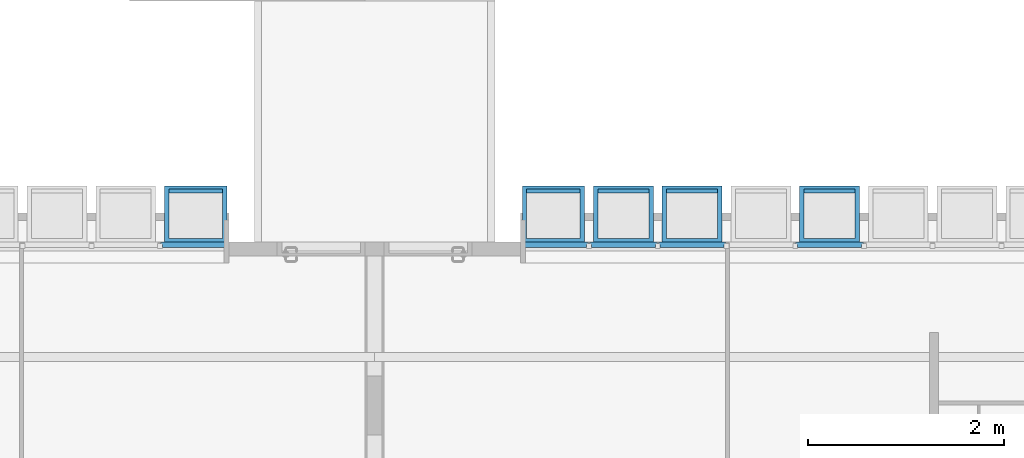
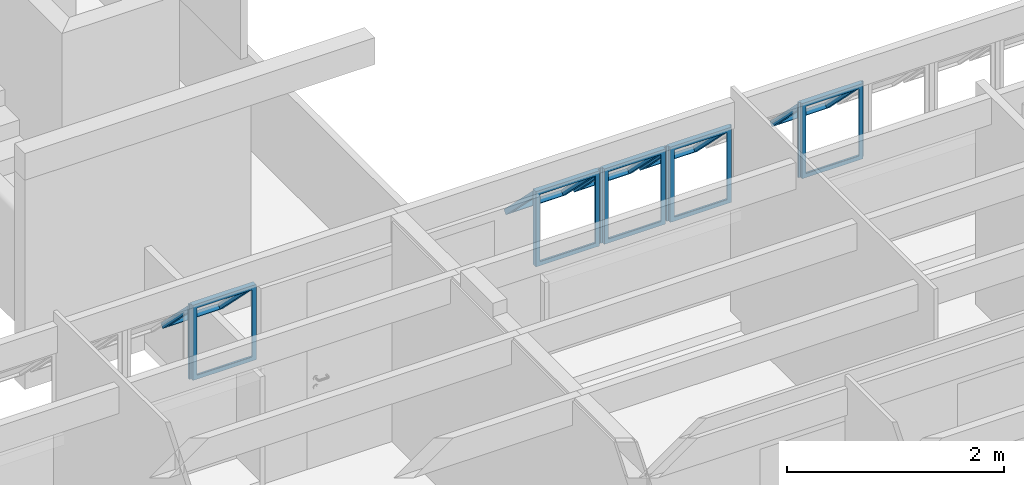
# One storey, part 30 of 38: 5 building element parts, 7 elements without a shape of their own.
"""IFC2X3 building model written with IfcOpenShell, lengths in millimetres."""

import ifcopenshell
import ifcopenshell.guid

model = None  # the IFC model being written
_history = None  # IfcOwnerHistory: only IFC2X3 demands one
_inside = {}  # id of a spatial element -> (the spatial element, [elements in it])
_under = {}  # id of a project, library or spatial element -> (it, [spatial elements below it])
_declared = {}  # id of a project -> (the project, [libraries it declares])
_typed = {}  # id of a type object -> (the type object, [elements of that type])
_made_of = {}  # id of a material, layer set ... -> (it, [elements and type objects made of it])


def new_model(schema):
    """Start an empty IFC model of exactly this schema.

    Asked for "IFC4X3", IfcOpenShell would pick the latest addendum, in which some entities
    have other attributes; the version numbers below select the first issue.
    IFC2X3 requires an IfcOwnerHistory on every rooted entity: one is made here for all.
    """
    global model, _history
    if schema == "IFC4X3":
        model = ifcopenshell.file(schema_version=(4, 3, 0, 0))
    else:
        model = ifcopenshell.file(schema=schema)
    _inside.clear()
    _under.clear()
    _declared.clear()
    _typed.clear()
    _made_of.clear()
    _history = None
    if model.schema == "IFC2X3":
        org = make("IfcOrganization", Name="unknown")
        user = make(
            "IfcPersonAndOrganization",
            ThePerson=make("IfcPerson", FamilyName="unknown"),
            TheOrganization=org,
        )
        app = make(
            "IfcApplication",
            ApplicationDeveloper=org,
            Version="unknown",
            ApplicationFullName="unknown",
            ApplicationIdentifier="unknown",
        )
        _history = make(
            "IfcOwnerHistory",
            OwningUser=user,
            OwningApplication=app,
            ChangeAction="ADDED",
            CreationDate=0,
        )
    return model


def make(cls, **values):
    """One entity of the class cls with the attributes given. An attribute that is None is left unset."""
    return model.create_entity(
        cls, **{name: value for name, value in values.items() if value is not None}
    )


def entity(cls, *values):
    """Any entity or typed value of the class cls, its attributes in the order of the schema. None: left unset."""
    e = model.create_entity(cls)
    for i, value in enumerate(values):
        if value is not None:
            e[i] = value
    return e


def rooted(cls, **values):
    """An entity with a GlobalId (a new one), such as an element, a storey or a relation."""
    return make(cls, GlobalId=ifcopenshell.guid.new(), OwnerHistory=_history, **values)


def si_unit(unit_type, name, prefix=None):
    """IfcSIUnit, for example si_unit("LENGTHUNIT", "METRE", prefix="MILLI")."""
    return make("IfcSIUnit", UnitType=unit_type, Prefix=prefix, Name=name)


def converted_unit(unit_type, name, factor, base, dimensions=None, offset=None):
    """IfcConversionBasedUnit, such as the inch: factor (a typed value) times the base unit."""
    return make(
        "IfcConversionBasedUnit"
        if offset is None
        else "IfcConversionBasedUnitWithOffset",
        ConversionOffset=offset,
        Dimensions=None
        if dimensions is None
        else entity("IfcDimensionalExponents", *dimensions),
        UnitType=unit_type,
        Name=name,
        ConversionFactor=make(
            "IfcMeasureWithUnit", ValueComponent=factor, UnitComponent=base
        ),
    )


def derived_unit(unit_type, elements):
    """IfcDerivedUnit: a product of units, each with its exponent."""
    return make(
        "IfcDerivedUnit",
        Elements=[
            make("IfcDerivedUnitElement", Unit=unit, Exponent=power)
            for unit, power in elements
        ],
        UnitType=unit_type,
    )


def money_unit(currency):
    """IfcMonetaryUnit."""
    return make("IfcMonetaryUnit", Currency=currency)


def assignment(units):
    """IfcUnitAssignment: the units of a project."""
    return None if units is None else make("IfcUnitAssignment", Units=units)


def point(xyz):
    """IfcCartesianPoint."""
    return None if xyz is None else make("IfcCartesianPoint", Coordinates=xyz)


def direction(xyz):
    """IfcDirection."""
    return None if xyz is None else make("IfcDirection", DirectionRatios=xyz)


def frame(location, z_axis=None, x_axis=None):
    """IfcAxis2Placement3D, a coordinate frame: its origin and axes. An axis left out is left unset."""
    return make(
        "IfcAxis2Placement3D",
        Location=point(location),
        Axis=direction(z_axis),
        RefDirection=direction(x_axis),
    )


def origin_with_axes():
    """The frame at (0, 0, 0) with the z axis (0, 0, 1) and the x axis (1, 0, 0) written out."""
    return frame((0.0, 0.0, 0.0), z_axis=(0.0, 0.0, 1.0), x_axis=(1.0, 0.0, 0.0))


def place(relative_to, where):
    """IfcLocalPlacement: puts the frame where relative to a parent placement (None: the world)."""
    return make(
        "IfcLocalPlacement", PlacementRelTo=relative_to, RelativePlacement=where
    )


def context(
    kind, dimensions, precision=None, world=None, true_north=None, identifier=None
):
    """IfcGeometricRepresentationContext, for example the 3D "Model" context."""
    return make(
        "IfcGeometricRepresentationContext",
        ContextIdentifier=identifier,
        ContextType=kind,
        CoordinateSpaceDimension=dimensions,
        Precision=precision,
        WorldCoordinateSystem=world,
        TrueNorth=true_north,
    )


def subcontext(parent, identifier, kind, view, scale=None):
    """IfcGeometricRepresentationSubContext, for example "Body" below "Model"."""
    return make(
        "IfcGeometricRepresentationSubContext",
        ContextIdentifier=identifier,
        ContextType=kind,
        ParentContext=parent,
        TargetScale=scale,
        TargetView=view,
    )


def project(units=None, contexts=None):
    """IfcProject with its units and contexts."""
    return rooted(
        "IfcProject",
        Name="project",
        RepresentationContexts=contexts,
        UnitsInContext=assignment(units),
    )


def spatial(cls, under=None, at=None, **own):
    """A site, building, storey or space (cls), placed at a placement, below another one or the project."""
    s = rooted(cls, ObjectPlacement=at, **own)
    if under is not None:
        _under.setdefault(under.id(), (under, []))[1].append(s)
    return s


def faces_of(points, faces, orient=None, outer=None):
    """IfcFace entities. A face is a list of loops; a loop is a list of indices into points, from 0.

    orient and outer hold one flag for each loop. By default every Orientation is true, the
    first loop of a face is its IfcFaceOuterBound and the others are IfcFaceBound.
    """
    made = []
    for i, loops in enumerate(faces):
        bounds = []
        for j, loop in enumerate(loops):
            is_outer = j == 0 if outer is None else outer[i][j]
            bounds.append(
                make(
                    "IfcFaceOuterBound" if is_outer else "IfcFaceBound",
                    Bound=make("IfcPolyLoop", Polygon=[points[k] for k in loop]),
                    Orientation=True if orient is None else orient[i][j],
                )
            )
        made.append(make("IfcFace", Bounds=bounds))
    return made


def faceted_brep(points, faces, orient=None, outer=None, voids=None):
    """IfcFacetedBrep: a solid bounded by flat faces; with voids (closed shells), ...WithVoids."""
    shared = [point(p) for p in points]
    hull = make("IfcClosedShell", CfsFaces=faces_of(shared, faces, orient, outer))
    if voids is None:
        return make("IfcFacetedBrep", Outer=hull)
    return make(
        "IfcFacetedBrepWithVoids",
        Outer=hull,
        Voids=[
            make(cls, CfsFaces=faces_of(shared, fs, o, b)) for cls, fs, o, b in voids
        ],
    )


def shape(context_of_items, identifier, shape_type, items):
    """IfcShapeRepresentation: the items that make up one representation, for example the "Body"."""
    return make(
        "IfcShapeRepresentation",
        ContextOfItems=context_of_items,
        RepresentationIdentifier=identifier,
        RepresentationType=shape_type,
        Items=items,
    )


def source(mapping_origin, context_of_items, identifier, shape_type, items):
    """IfcRepresentationMap: a shape defined once, which mapped items show again and again."""
    return make(
        "IfcRepresentationMap",
        MappingOrigin=mapping_origin,
        MappedRepresentation=shape(context_of_items, identifier, shape_type, items),
    )


def transform(
    local_origin,
    x_axis=None,
    y_axis=None,
    z_axis=None,
    scale=None,
    scale2=None,
    scale3=None,
    uniform=True,
):
    """IfcCartesianTransformationOperator3D, or its non-uniform kind. x_axis, y_axis, z_axis: its Axis1, 2, 3."""
    if uniform:
        return make(
            "IfcCartesianTransformationOperator3D",
            Axis1=direction(x_axis),
            Axis2=direction(y_axis),
            LocalOrigin=point(local_origin),
            Scale=scale,
            Axis3=direction(z_axis),
        )
    return make(
        "IfcCartesianTransformationOperator3DnonUniform",
        Axis1=direction(x_axis),
        Axis2=direction(y_axis),
        LocalOrigin=point(local_origin),
        Scale=scale,
        Axis3=direction(z_axis),
        Scale2=scale2,
        Scale3=scale3,
    )


def mapped(mapping_source, mapping_target):
    """IfcMappedItem: shows the shape of a source again, moved by a transform."""
    return make(
        "IfcMappedItem", MappingSource=mapping_source, MappingTarget=mapping_target
    )


def material(Name=None, Category=None):
    """IfcMaterial."""
    return make("IfcMaterial", Name=Name, Category=Category)


def made_of(thing, what):
    """Note that an element or type object is made of a material, layer set ...; save() writes the relation."""
    if what is not None:
        _made_of.setdefault(what.id(), (what, []))[1].append(thing)
    return thing


def type_object(cls, material=None, **own):
    """A type object (cls), such as IfcWallType, which elements share."""
    return made_of(rooted(cls, **own), material)


def element(
    cls,
    number,
    at=None,
    inside=None,
    cuts=None,
    type_object=None,
    material=None,
    context=None,
    identifier="Body",
    shape_type=None,
    held_by="IfcProductDefinitionShape",
    body=None,
    shapes=None,
    **own,
):
    """One element of the class cls, such as IfcWall. Its Tag is "e" and its number.

    at: its placement. inside: the storey or other place that contains it. cuts: it is an
    opening in that element (IfcRelVoidsElement). A single representation is given by context,
    identifier, shape_type and body (its items); several are given by shapes. held_by: the class
    of the entity that holds the representations. save() writes the other relations.
    """
    e = rooted(cls, Tag="e%d" % number, ObjectPlacement=at, **own)
    if body is not None:
        shapes = [shape(context, identifier, shape_type, body)]
    if shapes is not None:
        e.Representation = make(held_by, Representations=shapes)
    if inside is not None:
        _inside.setdefault(inside.id(), (inside, []))[1].append(e)
    if cuts is not None:
        rooted(
            "IfcRelVoidsElement", RelatingBuildingElement=cuts, RelatedOpeningElement=e
        )
    if type_object is not None:
        _typed.setdefault(type_object.id(), (type_object, []))[1].append(e)
    return made_of(e, material)


def aggregate(whole, parts):
    """IfcRelAggregates: a whole, such as a stair, and the parts it consists of."""
    return rooted("IfcRelAggregates", RelatingObject=whole, RelatedObjects=parts)


def save(model, path):
    """Write the relations noted so far, then the file.

    IfcRelAggregates (storeys below a building ...), IfcRelContainedInSpatialStructure (elements
    in a storey), IfcRelDefinesByType, IfcRelAssociatesMaterial and IfcRelDeclares: one each for
    every whole, place, type object, material and project.
    """
    for whole, parts in _under.values():
        aggregate(whole, parts)
    for where, things in _inside.values():
        rooted(
            "IfcRelContainedInSpatialStructure",
            RelatedElements=things,
            RelatingStructure=where,
        )
    for kind, things in _typed.values():
        rooted("IfcRelDefinesByType", RelatedObjects=things, RelatingType=kind)
    for what, things in _made_of.values():
        rooted("IfcRelAssociatesMaterial", RelatedObjects=things, RelatingMaterial=what)
    for by, libraries in _declared.values():
        rooted("IfcRelDeclares", RelatingContext=by, RelatedDefinitions=libraries)
    model.write(path)


model = new_model("IFC2X3")

# Units and contexts
model_context = context("Model", 3, precision=0.01, world=origin_with_axes(), true_north=direction((0.0, 1.0)))
body_context = subcontext(model_context, "Body", "Model", "MODEL_VIEW")
ifc_project = project(units=[si_unit("LENGTHUNIT", "METRE", prefix="MILLI"), si_unit("AREAUNIT", "SQUARE_METRE"), si_unit("VOLUMEUNIT", "CUBIC_METRE"), converted_unit("PLANEANGLEUNIT", "DEGREE", entity("IfcPlaneAngleMeasure", 0.0174532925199), si_unit("PLANEANGLEUNIT", "RADIAN"), dimensions=[0, 0, 0, 0, 0, 0, 0]), money_unit("USD"), converted_unit("TIMEUNIT", "Year", entity("IfcTimeMeasure", 31556926.0), si_unit("TIMEUNIT", "SECOND"), dimensions=[0, 0, 1, 0, 0, 0, 0]), si_unit("MASSUNIT", "GRAM", prefix="KILO"), si_unit("THERMODYNAMICTEMPERATUREUNIT", "DEGREE_CELSIUS"), si_unit("LUMINOUSINTENSITYUNIT", "LUMEN"), si_unit("ENERGYUNIT", "JOULE", prefix="MEGA"), derived_unit("THERMALCONDUCTANCEUNIT", [(si_unit("POWERUNIT", "WATT"), 1), (si_unit("LENGTHUNIT", "METRE"), -1), (si_unit("THERMODYNAMICTEMPERATUREUNIT", "KELVIN"), -1)]), derived_unit("SPECIFICHEATCAPACITYUNIT", [(si_unit("ENERGYUNIT", "JOULE"), 1), (si_unit("MASSUNIT", "GRAM", prefix="KILO"), -1), (si_unit("THERMODYNAMICTEMPERATUREUNIT", "KELVIN"), -1)]), derived_unit("MASSDENSITYUNIT", [(si_unit("MASSUNIT", "GRAM", prefix="KILO"), 1), (si_unit("VOLUMEUNIT", "CUBIC_METRE"), -1)])], contexts=[model_context])

# Site, building, storey
site_placement = place(None, origin_with_axes())
site = spatial("IfcSite", under=ifc_project, at=site_placement, Name="Local", CompositionType="ELEMENT")
building_placement = place(site_placement, origin_with_axes())
building = spatial("IfcBuilding", under=site, at=building_placement, Name="Construção", CompositionType="ELEMENT")
storey_placement = place(building_placement, frame((0.0, 0.0, 2650.0), z_axis=(0.0, 0.0, 1.0), x_axis=(1.0, 0.0, 0.0)))
storey = spatial("IfcBuildingStorey", under=building, at=storey_placement, Name="Segundo Pavimento", CompositionType="ELEMENT", Elevation=2650.0)

# Window, plates, building element parts
window_style = type_object("IfcWindowStyle", Name="Tipo de Parede Cortina", ConstructionType="NOTDEFINED", OperationType="NOTDEFINED", ParameterTakesPrecedence=False, Sizeable=False)
window_1_placement = place(storey_placement, frame((12020.0, 8250.0, 1355.00007107), z_axis=(0.0, 0.0, 1.0), x_axis=(1.0, 0.0, 0.0)))
window_1 = element("IfcWindow", 1, at=window_1_placement, inside=storey, type_object=window_style, Name="APTO6-JANELA-000")
plate_type_1 = type_object("IfcPlateType", Name="Painel Principal 690 x 845 x 20", PredefinedType="CURTAIN_PANEL")
plate_1_placement = place(window_1_placement, frame((0.0, 0.0, 422.499964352), z_axis=(0.0, 0.0, 1.0), x_axis=(1.0, 0.0, 0.0)))
plate_1 = element("IfcPlate", 2, at=plate_1_placement, type_object=plate_type_1, Name="APTO6-Painel-Prin-013")
ifc_material = material(Name="Alumínio")
shared_shape_1 = source(origin_with_axes(), body_context, "Body", "Brep", [
    faceted_brep([(25.0000036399, 0.0, -40.0), (674.999997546, 0.0, -40.0), (674.999997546, 0.0, -35.0), (25.0000036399, 0.0, -35.0), (70.0000036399, 45.0, -40.0), (629.999997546, 45.0, -40.0), (629.999997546, 45.0, -35.0), (70.0000036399, 45.0, -35.0)], [[[0, 1, 2, 3]], [[0, 4, 5, 1]], [[1, 5, 6, 2]], [[3, 2, 6, 7]], [[4, 0, 3, 7]], [[5, 4, 7, 6]]]),
    faceted_brep([(674.999997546, 0.0, -40.0), (674.999997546, 844.999891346, -40.0), (674.999997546, 844.999891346, -35.0), (674.999997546, 0.0, -35.0), (629.999997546, 45.0, -40.0), (629.999997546, 799.999891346, -40.0), (629.999997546, 799.999891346, -35.0), (629.999997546, 45.0, -35.0)], [[[0, 1, 2, 3]], [[0, 4, 5, 1]], [[1, 5, 6, 2]], [[3, 2, 6, 7]], [[4, 0, 3, 7]], [[5, 4, 7, 6]]]),
    faceted_brep([(25.0000036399, 844.999891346, -40.0), (70.0000036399, 799.999891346, -40.0), (70.0000036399, 799.999891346, -35.0), (25.0000036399, 844.999891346, -35.0), (674.999997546, 844.999891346, -40.0), (629.999997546, 799.999891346, -40.0), (629.999997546, 799.999891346, -35.0), (674.999997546, 844.999891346, -35.0)], [[[0, 1, 2, 3]], [[0, 4, 5, 1]], [[1, 5, 6, 2]], [[3, 2, 6, 7]], [[4, 0, 3, 7]], [[5, 4, 7, 6]]]),
    faceted_brep([(25.0000036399, 0.0, -40.0), (70.0000036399, 45.0, -40.0), (70.0000036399, 45.0, -35.0), (25.0000036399, 0.0, -35.0), (25.0000036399, 844.999891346, -40.0), (70.0000036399, 799.999891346, -40.0), (70.0000036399, 799.999891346, -35.0), (25.0000036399, 844.999891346, -35.0)], [[[0, 1, 2, 3]], [[0, 4, 5, 1]], [[1, 5, 6, 2]], [[3, 2, 6, 7]], [[4, 0, 3, 7]], [[5, 4, 7, 6]]]),
    faceted_brep([(25.0000036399, 0.0, -35.0), (674.999997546, 0.0, -35.0), (674.999997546, 0.0, 15.0), (25.0000036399, 0.0, 15.0), (45.0000036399, 20.0, -35.0), (654.999997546, 20.0, -35.0), (654.999997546, 20.0, 15.0), (45.0000036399, 20.0, 15.0)], [[[0, 1, 2, 3]], [[0, 4, 5, 1]], [[1, 5, 6, 2]], [[3, 2, 6, 7]], [[4, 0, 3, 7]], [[5, 4, 7, 6]]]),
    faceted_brep([(674.999997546, 0.0, -35.0), (674.999997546, 844.999891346, -35.0), (674.999997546, 844.999891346, 15.0), (674.999997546, 0.0, 15.0), (654.999997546, 20.0, -35.0), (654.999997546, 824.999891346, -35.0), (654.999997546, 824.999891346, 15.0), (654.999997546, 20.0, 15.0)], [[[0, 1, 2, 3]], [[0, 4, 5, 1]], [[1, 5, 6, 2]], [[3, 2, 6, 7]], [[4, 0, 3, 7]], [[5, 4, 7, 6]]]),
    faceted_brep([(25.0000036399, 844.999891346, -35.0), (45.0000036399, 824.999891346, -35.0), (45.0000036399, 824.999891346, 15.0), (25.0000036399, 844.999891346, 15.0), (674.999997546, 844.999891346, -35.0), (654.999997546, 824.999891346, -35.0), (654.999997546, 824.999891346, 15.0), (674.999997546, 844.999891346, 15.0)], [[[0, 1, 2, 3]], [[0, 4, 5, 1]], [[1, 5, 6, 2]], [[3, 2, 6, 7]], [[4, 0, 3, 7]], [[5, 4, 7, 6]]]),
    faceted_brep([(25.0000036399, 0.0, -35.0), (45.0000036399, 20.0, -35.0), (45.0000036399, 20.0, 15.0), (25.0000036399, 0.0, 15.0), (25.0000036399, 844.999891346, -35.0), (45.0000036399, 824.999891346, -35.0), (45.0000036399, 824.999891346, 15.0), (25.0000036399, 844.999891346, 15.0)], [[[0, 1, 2, 3]], [[0, 4, 5, 1]], [[1, 5, 6, 2]], [[3, 2, 6, 7]], [[4, 0, 3, 7]], [[5, 4, 7, 6]]]),
    faceted_brep([(694.999995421, 0.0, -10.0), (694.999995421, 844.999891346, -10.0), (694.999995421, 844.999891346, 10.0), (694.999995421, 0.0, 10.0), (674.999997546, 0.0, -10.0), (674.999997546, 844.999891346, -10.0), (674.999997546, 844.999891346, 10.0), (674.999997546, 0.0, 10.0)], [[[0, 1, 2, 3]], [[0, 4, 5, 1]], [[1, 5, 6, 2]], [[3, 2, 6, 7]], [[4, 0, 3, 7]], [[5, 4, 7, 6]]]),
    faceted_brep([(5.00000576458, 844.999891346, -10.0), (5.00000576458, 0.0, -10.0), (5.00000576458, 0.0, 10.0), (5.00000576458, 844.999891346, 10.0), (25.0000036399, 844.999891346, -10.0), (25.0000036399, 0.0, -10.0), (25.0000036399, 0.0, 10.0), (25.0000036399, 844.999891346, 10.0)], [[[0, 1, 2, 3]], [[0, 4, 5, 1]], [[1, 5, 6, 2]], [[3, 2, 6, 7]], [[4, 0, 3, 7]], [[5, 4, 7, 6]]]),
    faceted_brep([(90.0000036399, 252.243475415, 517.045737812), (90.0000036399, 757.824747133, 11.4644660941), (90.0000036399, 796.715620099, 50.3553390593), (90.0000036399, 291.13434838, 555.936610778), (45.0000036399, 220.423670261, 548.865542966), (45.0000036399, 789.644552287, -20.3553390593), (45.0000036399, 828.535425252, 18.5355339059), (45.0000036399, 259.314543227, 587.756415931)], [[[0, 1, 2, 3]], [[0, 4, 5, 1]], [[1, 5, 6, 2]], [[3, 2, 6, 7]], [[4, 0, 3, 7]], [[5, 4, 7, 6]]]),
    faceted_brep([(654.999997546, 220.423670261, 548.865542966), (654.999997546, 789.644552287, -20.3553390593), (654.999997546, 828.535425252, 18.5355339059), (654.999997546, 259.314543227, 587.756415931), (609.999997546, 252.243475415, 517.045737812), (609.999997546, 757.824747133, 11.4644660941), (609.999997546, 796.715620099, 50.3553390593), (609.999997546, 291.13434838, 555.936610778)], [[[0, 1, 2, 3]], [[0, 4, 5, 1]], [[1, 5, 6, 2]], [[3, 2, 6, 7]], [[4, 0, 3, 7]], [[5, 4, 7, 6]]]),
    faceted_brep([(654.999997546, 220.423670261, 548.865542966), (609.999997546, 252.243475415, 517.045737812), (609.999997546, 291.13434838, 555.936610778), (654.999997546, 259.314543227, 587.756415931), (45.0000036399, 220.423670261, 548.865542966), (90.0000036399, 252.243475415, 517.045737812), (90.0000036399, 291.13434838, 555.936610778), (45.0000036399, 259.314543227, 587.756415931)], [[[0, 1, 2, 3]], [[0, 4, 5, 1]], [[1, 5, 6, 2]], [[3, 2, 6, 7]], [[4, 0, 3, 7]], [[5, 4, 7, 6]]]),
    faceted_brep([(45.0000036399, 789.644552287, -20.3553390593), (90.0000036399, 757.824747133, 11.4644660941), (90.0000036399, 796.715620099, 50.3553390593), (45.0000036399, 828.535425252, 18.5355339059), (654.999997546, 789.644552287, -20.3553390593), (609.999997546, 757.824747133, 11.4644660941), (609.999997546, 796.715620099, 50.3553390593), (654.999997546, 828.535425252, 18.5355339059)], [[[0, 1, 2, 3]], [[0, 4, 5, 1]], [[1, 5, 6, 2]], [[3, 2, 6, 7]], [[4, 0, 3, 7]], [[5, 4, 7, 6]]]),
])
building_element_part_1_placement = place(plate_1_placement, origin_with_axes())
building_element_part_1 = element("IfcBuildingElementPart", 3, at=building_element_part_1_placement, material=ifc_material, Name="Alumínio", context=body_context, shape_type="MappedRepresentation", body=[
    mapped(shared_shape_1, transform((350.0, 0.0, -422.499964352), x_axis=(-1.0, 0.0, 0.0), y_axis=(0.0, 0.0, 1.0), z_axis=(0.0, 1.0, 0.0))),
])
aggregate(plate_1, [building_element_part_1])
plate_2_placement = place(window_1_placement, frame((-2100.0, 0.0, 422.499964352), z_axis=(0.0, 0.0, 1.0), x_axis=(1.0, 0.0, 0.0)))
plate_2 = element("IfcPlate", 4, at=plate_2_placement, type_object=plate_type_1, Name="APTO6-Painel-Prin-029")
building_element_part_2_placement = place(plate_2_placement, origin_with_axes())
building_element_part_2 = element("IfcBuildingElementPart", 5, at=building_element_part_2_placement, material=ifc_material, Name="Alumínio", context=body_context, shape_type="MappedRepresentation", body=[
    mapped(shared_shape_1, transform((350.0, 0.0, -422.499964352), x_axis=(-1.0, 0.0, 0.0), y_axis=(0.0, 0.0, 1.0), z_axis=(0.0, 1.0, 0.0))),
])
aggregate(plate_2, [building_element_part_2])
plate_3_placement = place(window_1_placement, frame((-1400.0, 0.0, 422.499964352), z_axis=(0.0, 0.0, 1.0), x_axis=(1.0, 0.0, 0.0)))
plate_3 = element("IfcPlate", 6, at=plate_3_placement, type_object=plate_type_1, Name="APTO6-Painel-Prin-025")
shared_shape_2 = source(origin_with_axes(), body_context, "Body", "Brep", [
    faceted_brep([(25.0000036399, 0.0, -40.0), (674.999997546, 0.0, -40.0), (674.999997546, 0.0, -35.0), (25.0000036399, 0.0, -35.0), (70.0000036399, 45.0, -40.0), (629.999997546, 45.0, -40.0), (629.999997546, 45.0, -35.0), (70.0000036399, 45.0, -35.0)], [[[0, 1, 2, 3]], [[0, 4, 5, 1]], [[1, 5, 6, 2]], [[3, 2, 6, 7]], [[4, 0, 3, 7]], [[5, 4, 7, 6]]]),
    faceted_brep([(674.999997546, 0.0, -40.0), (674.999997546, 844.999891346, -40.0), (674.999997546, 844.999891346, -35.0), (674.999997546, 0.0, -35.0), (629.999997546, 45.0, -40.0), (629.999997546, 799.999891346, -40.0), (629.999997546, 799.999891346, -35.0), (629.999997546, 45.0, -35.0)], [[[0, 1, 2, 3]], [[0, 4, 5, 1]], [[1, 5, 6, 2]], [[3, 2, 6, 7]], [[4, 0, 3, 7]], [[5, 4, 7, 6]]]),
    faceted_brep([(25.0000036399, 844.999891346, -40.0), (70.0000036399, 799.999891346, -40.0), (70.0000036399, 799.999891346, -35.0), (25.0000036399, 844.999891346, -35.0), (674.999997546, 844.999891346, -40.0), (629.999997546, 799.999891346, -40.0), (629.999997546, 799.999891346, -35.0), (674.999997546, 844.999891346, -35.0)], [[[0, 1, 2, 3]], [[0, 4, 5, 1]], [[1, 5, 6, 2]], [[3, 2, 6, 7]], [[4, 0, 3, 7]], [[5, 4, 7, 6]]]),
    faceted_brep([(25.0000036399, 0.0, -40.0), (70.0000036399, 45.0, -40.0), (70.0000036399, 45.0, -35.0), (25.0000036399, 0.0, -35.0), (25.0000036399, 844.999891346, -40.0), (70.0000036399, 799.999891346, -40.0), (70.0000036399, 799.999891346, -35.0), (25.0000036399, 844.999891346, -35.0)], [[[0, 1, 2, 3]], [[0, 4, 5, 1]], [[1, 5, 6, 2]], [[3, 2, 6, 7]], [[4, 0, 3, 7]], [[5, 4, 7, 6]]]),
    faceted_brep([(25.0000036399, 0.0, -35.0), (674.999997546, 0.0, -35.0), (674.999997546, 0.0, 15.0), (25.0000036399, 0.0, 15.0), (45.0000036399, 20.0, -35.0), (654.999997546, 20.0, -35.0), (654.999997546, 20.0, 15.0), (45.0000036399, 20.0, 15.0)], [[[0, 1, 2, 3]], [[0, 4, 5, 1]], [[1, 5, 6, 2]], [[3, 2, 6, 7]], [[4, 0, 3, 7]], [[5, 4, 7, 6]]]),
    faceted_brep([(674.999997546, 0.0, -35.0), (674.999997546, 844.999891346, -35.0), (674.999997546, 844.999891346, 15.0), (674.999997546, 0.0, 15.0), (654.999997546, 20.0, -35.0), (654.999997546, 824.999891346, -35.0), (654.999997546, 824.999891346, 15.0), (654.999997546, 20.0, 15.0)], [[[0, 1, 2, 3]], [[0, 4, 5, 1]], [[1, 5, 6, 2]], [[3, 2, 6, 7]], [[4, 0, 3, 7]], [[5, 4, 7, 6]]]),
    faceted_brep([(25.0000036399, 844.999891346, -35.0), (45.0000036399, 824.999891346, -35.0), (45.0000036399, 824.999891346, 15.0), (25.0000036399, 844.999891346, 15.0), (674.999997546, 844.999891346, -35.0), (654.999997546, 824.999891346, -35.0), (654.999997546, 824.999891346, 15.0), (674.999997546, 844.999891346, 15.0)], [[[0, 1, 2, 3]], [[0, 4, 5, 1]], [[1, 5, 6, 2]], [[3, 2, 6, 7]], [[4, 0, 3, 7]], [[5, 4, 7, 6]]]),
    faceted_brep([(25.0000036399, 0.0, -35.0), (45.0000036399, 20.0, -35.0), (45.0000036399, 20.0, 15.0), (25.0000036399, 0.0, 15.0), (25.0000036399, 844.999891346, -35.0), (45.0000036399, 824.999891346, -35.0), (45.0000036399, 824.999891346, 15.0), (25.0000036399, 844.999891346, 15.0)], [[[0, 1, 2, 3]], [[0, 4, 5, 1]], [[1, 5, 6, 2]], [[3, 2, 6, 7]], [[4, 0, 3, 7]], [[5, 4, 7, 6]]]),
    faceted_brep([(694.999995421, 0.0, -10.0), (694.999995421, 844.999891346, -10.0), (694.999995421, 844.999891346, 10.0), (694.999995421, 0.0, 10.0), (674.999997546, 0.0, -10.0), (674.999997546, 844.999891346, -10.0), (674.999997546, 844.999891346, 10.0), (674.999997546, 0.0, 10.0)], [[[0, 1, 2, 3]], [[0, 4, 5, 1]], [[1, 5, 6, 2]], [[3, 2, 6, 7]], [[4, 0, 3, 7]], [[5, 4, 7, 6]]]),
    faceted_brep([(5.00000576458, 844.999891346, -10.0), (5.00000576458, 0.0, -10.0), (5.00000576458, 0.0, 10.0), (5.00000576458, 844.999891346, 10.0), (25.0000036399, 844.999891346, -10.0), (25.0000036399, 0.0, -10.0), (25.0000036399, 0.0, 10.0), (25.0000036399, 844.999891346, 10.0)], [[[0, 1, 2, 3]], [[0, 4, 5, 1]], [[1, 5, 6, 2]], [[3, 2, 6, 7]], [[4, 0, 3, 7]], [[5, 4, 7, 6]]]),
    faceted_brep([(90.0000036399, 252.243475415, 517.045737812), (90.0000036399, 757.824747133, 11.4644660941), (90.0000036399, 796.715620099, 50.3553390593), (90.0000036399, 291.13434838, 555.936610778), (45.0000036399, 220.423670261, 548.865542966), (45.0000036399, 789.644552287, -20.3553390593), (45.0000036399, 828.535425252, 18.5355339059), (45.0000036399, 259.314543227, 587.756415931)], [[[0, 1, 2, 3]], [[0, 4, 5, 1]], [[1, 5, 6, 2]], [[3, 2, 6, 7]], [[4, 0, 3, 7]], [[5, 4, 7, 6]]]),
    faceted_brep([(654.999997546, 220.423670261, 548.865542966), (654.999997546, 789.644552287, -20.3553390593), (654.999997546, 828.535425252, 18.5355339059), (654.999997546, 259.314543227, 587.756415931), (609.999997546, 252.243475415, 517.045737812), (609.999997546, 757.824747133, 11.4644660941), (609.999997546, 796.715620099, 50.3553390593), (609.999997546, 291.13434838, 555.936610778)], [[[0, 1, 2, 3]], [[0, 4, 5, 1]], [[1, 5, 6, 2]], [[3, 2, 6, 7]], [[4, 0, 3, 7]], [[5, 4, 7, 6]]]),
    faceted_brep([(654.999997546, 220.423670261, 548.865542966), (609.999997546, 252.243475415, 517.045737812), (609.999997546, 291.13434838, 555.936610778), (654.999997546, 259.314543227, 587.756415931), (45.0000036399, 220.423670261, 548.865542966), (90.0000036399, 252.243475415, 517.045737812), (90.0000036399, 291.13434838, 555.936610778), (45.0000036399, 259.314543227, 587.756415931)], [[[0, 1, 2, 3]], [[0, 4, 5, 1]], [[1, 5, 6, 2]], [[3, 2, 6, 7]], [[4, 0, 3, 7]], [[5, 4, 7, 6]]]),
    faceted_brep([(45.0000036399, 789.644552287, -20.3553390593), (90.0000036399, 757.824747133, 11.4644660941), (90.0000036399, 796.715620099, 50.3553390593), (45.0000036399, 828.535425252, 18.5355339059), (654.999997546, 789.644552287, -20.3553390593), (609.999997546, 757.824747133, 11.4644660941), (609.999997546, 796.715620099, 50.3553390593), (654.999997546, 828.535425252, 18.5355339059)], [[[0, 1, 2, 3]], [[0, 4, 5, 1]], [[1, 5, 6, 2]], [[3, 2, 6, 7]], [[4, 0, 3, 7]], [[5, 4, 7, 6]]]),
])
building_element_part_3_placement = place(plate_3_placement, origin_with_axes())
building_element_part_3 = element("IfcBuildingElementPart", 7, at=building_element_part_3_placement, material=ifc_material, Name="Alumínio", context=body_context, shape_type="MappedRepresentation", body=[
    mapped(shared_shape_2, transform((350.0, 0.0, -422.499964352), x_axis=(-1.0, 0.0, 0.0), y_axis=(0.0, 0.0, 1.0), z_axis=(0.0, 1.0, 0.0))),
])
aggregate(plate_3, [building_element_part_3])

# Window, plate, building element part
window_2_placement = place(storey_placement, frame((2750.0, 8250.0, 1355.00007107), z_axis=(0.0, 0.0, 1.0), x_axis=(1.0, 0.0, 0.0)))
window_2 = element("IfcWindow", 8, at=window_2_placement, inside=storey, type_object=window_style, Name="APTO5-JANELA-000")
plate_type_2 = type_object("IfcPlateType", Name="Painel Principal 695 x 845 x 20", PredefinedType="CURTAIN_PANEL")
plate_4_placement = place(window_2_placement, frame((2800.0, 0.0, 422.499986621), z_axis=(0.0, 0.0, 1.0), x_axis=(-1.0, 0.0, 0.0)))
plate_4 = element("IfcPlate", 9, at=plate_4_placement, type_object=plate_type_2, Name="APTO5-Painel-Prin-020")
aggregate(window_2, [plate_4])
shared_shape_3 = source(origin_with_axes(), body_context, "Body", "Brep", [
    faceted_brep([(-25.0000062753, 0.0, -40.0), (-25.0000062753, 0.0, -35.0), (-699.999999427, 0.0, -35.0), (-699.999999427, 0.0, -40.0), (-70.0000062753, 45.0, -40.0), (-70.0000062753, 45.0, -35.0), (-654.999999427, 45.0, -35.0), (-654.999999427, 45.0, -40.0)], [[[0, 1, 2, 3]], [[4, 5, 1, 0]], [[1, 5, 6, 2]], [[3, 2, 6, 7]], [[0, 3, 7, 4]], [[7, 6, 5, 4]]]),
    faceted_brep([(-699.999999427, 0.0, -40.0), (-699.999999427, 0.0, -35.0), (-699.999999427, 844.999980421, -35.0), (-699.999999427, 844.999980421, -40.0), (-654.999999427, 45.0, -40.0), (-654.999999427, 45.0, -35.0), (-654.999999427, 799.999980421, -35.0), (-654.999999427, 799.999980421, -40.0)], [[[0, 1, 2, 3]], [[4, 5, 1, 0]], [[1, 5, 6, 2]], [[3, 2, 6, 7]], [[0, 3, 7, 4]], [[7, 6, 5, 4]]]),
    faceted_brep([(-25.0000062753, 844.999980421, -40.0), (-25.0000062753, 844.999980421, -35.0), (-70.0000062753, 799.999980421, -35.0), (-70.0000062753, 799.999980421, -40.0), (-699.999999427, 844.999980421, -40.0), (-699.999999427, 844.999980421, -35.0), (-654.999999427, 799.999980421, -35.0), (-654.999999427, 799.999980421, -40.0)], [[[0, 1, 2, 3]], [[4, 5, 1, 0]], [[1, 5, 6, 2]], [[3, 2, 6, 7]], [[0, 3, 7, 4]], [[7, 6, 5, 4]]]),
    faceted_brep([(-25.0000062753, 0.0, -40.0), (-25.0000062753, 0.0, -35.0), (-70.0000062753, 45.0, -35.0), (-70.0000062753, 45.0, -40.0), (-25.0000062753, 844.999980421, -40.0), (-25.0000062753, 844.999980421, -35.0), (-70.0000062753, 799.999980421, -35.0), (-70.0000062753, 799.999980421, -40.0)], [[[0, 1, 2, 3]], [[4, 5, 1, 0]], [[1, 5, 6, 2]], [[3, 2, 6, 7]], [[0, 3, 7, 4]], [[7, 6, 5, 4]]]),
    faceted_brep([(-25.0000062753, 0.0, -35.0), (-25.0000062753, 0.0, 15.0), (-699.999999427, 0.0, 15.0), (-699.999999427, 0.0, -35.0), (-45.0000062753, 20.0, -35.0), (-45.0000062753, 20.0, 15.0), (-679.999999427, 20.0, 15.0), (-679.999999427, 20.0, -35.0)], [[[0, 1, 2, 3]], [[4, 5, 1, 0]], [[1, 5, 6, 2]], [[3, 2, 6, 7]], [[0, 3, 7, 4]], [[7, 6, 5, 4]]]),
    faceted_brep([(-699.999999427, 0.0, -35.0), (-699.999999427, 0.0, 15.0), (-699.999999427, 844.999980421, 15.0), (-699.999999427, 844.999980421, -35.0), (-679.999999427, 20.0, -35.0), (-679.999999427, 20.0, 15.0), (-679.999999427, 824.999980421, 15.0), (-679.999999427, 824.999980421, -35.0)], [[[0, 1, 2, 3]], [[4, 5, 1, 0]], [[1, 5, 6, 2]], [[3, 2, 6, 7]], [[0, 3, 7, 4]], [[7, 6, 5, 4]]]),
    faceted_brep([(-25.0000062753, 844.999980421, -35.0), (-25.0000062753, 844.999980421, 15.0), (-45.0000062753, 824.999980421, 15.0), (-45.0000062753, 824.999980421, -35.0), (-699.999999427, 844.999980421, -35.0), (-699.999999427, 844.999980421, 15.0), (-679.999999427, 824.999980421, 15.0), (-679.999999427, 824.999980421, -35.0)], [[[0, 1, 2, 3]], [[4, 5, 1, 0]], [[1, 5, 6, 2]], [[3, 2, 6, 7]], [[0, 3, 7, 4]], [[7, 6, 5, 4]]]),
    faceted_brep([(-25.0000062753, 0.0, -35.0), (-25.0000062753, 0.0, 15.0), (-45.0000062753, 20.0, 15.0), (-45.0000062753, 20.0, -35.0), (-25.0000062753, 844.999980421, -35.0), (-25.0000062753, 844.999980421, 15.0), (-45.0000062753, 824.999980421, 15.0), (-45.0000062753, 824.999980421, -35.0)], [[[0, 1, 2, 3]], [[4, 5, 1, 0]], [[1, 5, 6, 2]], [[3, 2, 6, 7]], [[0, 3, 7, 4]], [[7, 6, 5, 4]]]),
    faceted_brep([(-5.00000629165, 844.999980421, -10.0), (-5.00000629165, 844.999980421, 10.0), (-5.00000629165, 0.0, 10.0), (-5.00000629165, 0.0, -10.0), (-25.0000062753, 844.999980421, -10.0), (-25.0000062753, 844.999980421, 10.0), (-25.0000062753, 0.0, 10.0), (-25.0000062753, 0.0, -10.0)], [[[0, 1, 2, 3]], [[4, 5, 1, 0]], [[1, 5, 6, 2]], [[3, 2, 6, 7]], [[0, 3, 7, 4]], [[7, 6, 5, 4]]]),
    faceted_brep([(-90.0000062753, 252.243501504, 517.045800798), (-90.0000062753, 291.134374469, 555.936673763), (-90.0000062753, 796.715709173, 50.3553390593), (-90.0000062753, 757.824836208, 11.4644660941), (-45.0000062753, 220.423696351, 548.865605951), (-45.0000062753, 259.314569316, 587.756478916), (-45.0000062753, 828.535514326, 18.5355339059), (-45.0000062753, 789.644641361, -20.3553390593)], [[[0, 1, 2, 3]], [[4, 5, 1, 0]], [[1, 5, 6, 2]], [[3, 2, 6, 7]], [[0, 3, 7, 4]], [[7, 6, 5, 4]]]),
    faceted_brep([(-679.999999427, 220.423696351, 548.865605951), (-679.999999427, 259.314569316, 587.756478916), (-679.999999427, 828.535514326, 18.5355339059), (-679.999999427, 789.644641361, -20.3553390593), (-634.999999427, 252.243501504, 517.045800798), (-634.999999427, 291.134374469, 555.936673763), (-634.999999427, 796.715709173, 50.3553390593), (-634.999999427, 757.824836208, 11.4644660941)], [[[0, 1, 2, 3]], [[4, 5, 1, 0]], [[1, 5, 6, 2]], [[3, 2, 6, 7]], [[0, 3, 7, 4]], [[7, 6, 5, 4]]]),
    faceted_brep([(-679.999999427, 220.423696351, 548.865605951), (-679.999999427, 259.314569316, 587.756478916), (-634.999999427, 291.134374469, 555.936673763), (-634.999999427, 252.243501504, 517.045800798), (-45.0000062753, 220.423696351, 548.865605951), (-45.0000062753, 259.314569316, 587.756478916), (-90.0000062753, 291.134374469, 555.936673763), (-90.0000062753, 252.243501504, 517.045800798)], [[[0, 1, 2, 3]], [[4, 5, 1, 0]], [[1, 5, 6, 2]], [[3, 2, 6, 7]], [[0, 3, 7, 4]], [[7, 6, 5, 4]]]),
    faceted_brep([(-45.0000062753, 789.644641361, -20.3553390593), (-45.0000062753, 828.535514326, 18.5355339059), (-90.0000062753, 796.715709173, 50.3553390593), (-90.0000062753, 757.824836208, 11.4644660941), (-679.999999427, 789.644641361, -20.3553390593), (-679.999999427, 828.535514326, 18.5355339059), (-634.999999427, 796.715709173, 50.3553390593), (-634.999999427, 757.824836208, 11.4644660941)], [[[0, 1, 2, 3]], [[4, 5, 1, 0]], [[1, 5, 6, 2]], [[3, 2, 6, 7]], [[0, 3, 7, 4]], [[7, 6, 5, 4]]]),
])
building_element_part_4_placement = place(plate_4_placement, origin_with_axes())
building_element_part_4 = element("IfcBuildingElementPart", 10, at=building_element_part_4_placement, material=ifc_material, Name="Alumínio", context=body_context, shape_type="MappedRepresentation", body=[
    mapped(shared_shape_3, transform((350.0, 0.0, -422.499986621), x_axis=(1.0, 0.0, 0.0), y_axis=(0.0, 0.0, 1.0), z_axis=(0.0, -1.0, 0.0))),
])
aggregate(plate_4, [building_element_part_4])

# Plate
plate_5_placement = place(window_1_placement, frame((-2800.0, 0.0, 422.499986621), z_axis=(0.0, 0.0, 1.0), x_axis=(1.0, 0.0, 0.0)))
plate_5 = element("IfcPlate", 11, at=plate_5_placement, type_object=plate_type_2, Name="APTO6-Painel-Prin-020")

aggregate(window_1, [plate_1, plate_2, plate_3, plate_5])

# Building element part
shared_shape_4 = source(origin_with_axes(), body_context, "Body", "Brep", [
    faceted_brep([(25.0000062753, 0.0, -40.0), (699.999999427, 0.0, -40.0), (699.999999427, 0.0, -35.0), (25.0000062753, 0.0, -35.0), (70.0000062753, 45.0, -40.0), (654.999999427, 45.0, -40.0), (654.999999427, 45.0, -35.0), (70.0000062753, 45.0, -35.0)], [[[0, 1, 2, 3]], [[0, 4, 5, 1]], [[1, 5, 6, 2]], [[3, 2, 6, 7]], [[4, 0, 3, 7]], [[5, 4, 7, 6]]]),
    faceted_brep([(699.999999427, 0.0, -40.0), (699.999999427, 844.999980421, -40.0), (699.999999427, 844.999980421, -35.0), (699.999999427, 0.0, -35.0), (654.999999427, 45.0, -40.0), (654.999999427, 799.999980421, -40.0), (654.999999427, 799.999980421, -35.0), (654.999999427, 45.0, -35.0)], [[[0, 1, 2, 3]], [[0, 4, 5, 1]], [[1, 5, 6, 2]], [[3, 2, 6, 7]], [[4, 0, 3, 7]], [[5, 4, 7, 6]]]),
    faceted_brep([(25.0000062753, 844.999980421, -40.0), (70.0000062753, 799.999980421, -40.0), (70.0000062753, 799.999980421, -35.0), (25.0000062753, 844.999980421, -35.0), (699.999999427, 844.999980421, -40.0), (654.999999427, 799.999980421, -40.0), (654.999999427, 799.999980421, -35.0), (699.999999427, 844.999980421, -35.0)], [[[0, 1, 2, 3]], [[0, 4, 5, 1]], [[1, 5, 6, 2]], [[3, 2, 6, 7]], [[4, 0, 3, 7]], [[5, 4, 7, 6]]]),
    faceted_brep([(25.0000062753, 0.0, -40.0), (70.0000062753, 45.0, -40.0), (70.0000062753, 45.0, -35.0), (25.0000062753, 0.0, -35.0), (25.0000062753, 844.999980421, -40.0), (70.0000062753, 799.999980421, -40.0), (70.0000062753, 799.999980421, -35.0), (25.0000062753, 844.999980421, -35.0)], [[[0, 1, 2, 3]], [[0, 4, 5, 1]], [[1, 5, 6, 2]], [[3, 2, 6, 7]], [[4, 0, 3, 7]], [[5, 4, 7, 6]]]),
    faceted_brep([(25.0000062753, 0.0, -35.0), (699.999999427, 0.0, -35.0), (699.999999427, 0.0, 15.0), (25.0000062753, 0.0, 15.0), (45.0000062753, 20.0, -35.0), (679.999999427, 20.0, -35.0), (679.999999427, 20.0, 15.0), (45.0000062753, 20.0, 15.0)], [[[0, 1, 2, 3]], [[0, 4, 5, 1]], [[1, 5, 6, 2]], [[3, 2, 6, 7]], [[4, 0, 3, 7]], [[5, 4, 7, 6]]]),
    faceted_brep([(699.999999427, 0.0, -35.0), (699.999999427, 844.999980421, -35.0), (699.999999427, 844.999980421, 15.0), (699.999999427, 0.0, 15.0), (679.999999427, 20.0, -35.0), (679.999999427, 824.999980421, -35.0), (679.999999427, 824.999980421, 15.0), (679.999999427, 20.0, 15.0)], [[[0, 1, 2, 3]], [[0, 4, 5, 1]], [[1, 5, 6, 2]], [[3, 2, 6, 7]], [[4, 0, 3, 7]], [[5, 4, 7, 6]]]),
    faceted_brep([(25.0000062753, 844.999980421, -35.0), (45.0000062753, 824.999980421, -35.0), (45.0000062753, 824.999980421, 15.0), (25.0000062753, 844.999980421, 15.0), (699.999999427, 844.999980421, -35.0), (679.999999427, 824.999980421, -35.0), (679.999999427, 824.999980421, 15.0), (699.999999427, 844.999980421, 15.0)], [[[0, 1, 2, 3]], [[0, 4, 5, 1]], [[1, 5, 6, 2]], [[3, 2, 6, 7]], [[4, 0, 3, 7]], [[5, 4, 7, 6]]]),
    faceted_brep([(25.0000062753, 0.0, -35.0), (45.0000062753, 20.0, -35.0), (45.0000062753, 20.0, 15.0), (25.0000062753, 0.0, 15.0), (25.0000062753, 844.999980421, -35.0), (45.0000062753, 824.999980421, -35.0), (45.0000062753, 824.999980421, 15.0), (25.0000062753, 844.999980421, 15.0)], [[[0, 1, 2, 3]], [[0, 4, 5, 1]], [[1, 5, 6, 2]], [[3, 2, 6, 7]], [[4, 0, 3, 7]], [[5, 4, 7, 6]]]),
    faceted_brep([(5.00000629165, 844.999980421, -10.0), (5.00000629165, 0.0, -10.0), (5.00000629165, 0.0, 10.0), (5.00000629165, 844.999980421, 10.0), (25.0000062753, 844.999980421, -10.0), (25.0000062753, 0.0, -10.0), (25.0000062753, 0.0, 10.0), (25.0000062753, 844.999980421, 10.0)], [[[0, 1, 2, 3]], [[0, 4, 5, 1]], [[1, 5, 6, 2]], [[3, 2, 6, 7]], [[4, 0, 3, 7]], [[5, 4, 7, 6]]]),
    faceted_brep([(90.0000062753, 252.243501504, 517.045800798), (90.0000062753, 757.824836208, 11.4644660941), (90.0000062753, 796.715709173, 50.3553390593), (90.0000062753, 291.134374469, 555.936673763), (45.0000062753, 220.423696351, 548.865605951), (45.0000062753, 789.644641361, -20.3553390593), (45.0000062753, 828.535514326, 18.5355339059), (45.0000062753, 259.314569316, 587.756478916)], [[[0, 1, 2, 3]], [[0, 4, 5, 1]], [[1, 5, 6, 2]], [[3, 2, 6, 7]], [[4, 0, 3, 7]], [[5, 4, 7, 6]]]),
    faceted_brep([(679.999999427, 220.423696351, 548.865605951), (679.999999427, 789.644641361, -20.3553390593), (679.999999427, 828.535514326, 18.5355339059), (679.999999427, 259.314569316, 587.756478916), (634.999999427, 252.243501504, 517.045800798), (634.999999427, 757.824836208, 11.4644660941), (634.999999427, 796.715709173, 50.3553390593), (634.999999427, 291.134374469, 555.936673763)], [[[0, 1, 2, 3]], [[0, 4, 5, 1]], [[1, 5, 6, 2]], [[3, 2, 6, 7]], [[4, 0, 3, 7]], [[5, 4, 7, 6]]]),
    faceted_brep([(679.999999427, 220.423696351, 548.865605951), (634.999999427, 252.243501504, 517.045800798), (634.999999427, 291.134374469, 555.936673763), (679.999999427, 259.314569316, 587.756478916), (45.0000062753, 220.423696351, 548.865605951), (90.0000062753, 252.243501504, 517.045800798), (90.0000062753, 291.134374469, 555.936673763), (45.0000062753, 259.314569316, 587.756478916)], [[[0, 1, 2, 3]], [[0, 4, 5, 1]], [[1, 5, 6, 2]], [[3, 2, 6, 7]], [[4, 0, 3, 7]], [[5, 4, 7, 6]]]),
    faceted_brep([(45.0000062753, 789.644641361, -20.3553390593), (90.0000062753, 757.824836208, 11.4644660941), (90.0000062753, 796.715709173, 50.3553390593), (45.0000062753, 828.535514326, 18.5355339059), (679.999999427, 789.644641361, -20.3553390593), (634.999999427, 757.824836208, 11.4644660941), (634.999999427, 796.715709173, 50.3553390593), (679.999999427, 828.535514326, 18.5355339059)], [[[0, 1, 2, 3]], [[0, 4, 5, 1]], [[1, 5, 6, 2]], [[3, 2, 6, 7]], [[4, 0, 3, 7]], [[5, 4, 7, 6]]]),
])
building_element_part_5_placement = place(plate_5_placement, origin_with_axes())
building_element_part_5 = element("IfcBuildingElementPart", 12, at=building_element_part_5_placement, material=ifc_material, Name="Alumínio", context=body_context, shape_type="MappedRepresentation", body=[
    mapped(shared_shape_4, transform((350.0, 0.0, -422.499986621), x_axis=(-1.0, 0.0, 0.0), y_axis=(0.0, 0.0, 1.0), z_axis=(0.0, 1.0, 0.0))),
])

aggregate(plate_5, [building_element_part_5])

save(model, "model.ifc")
